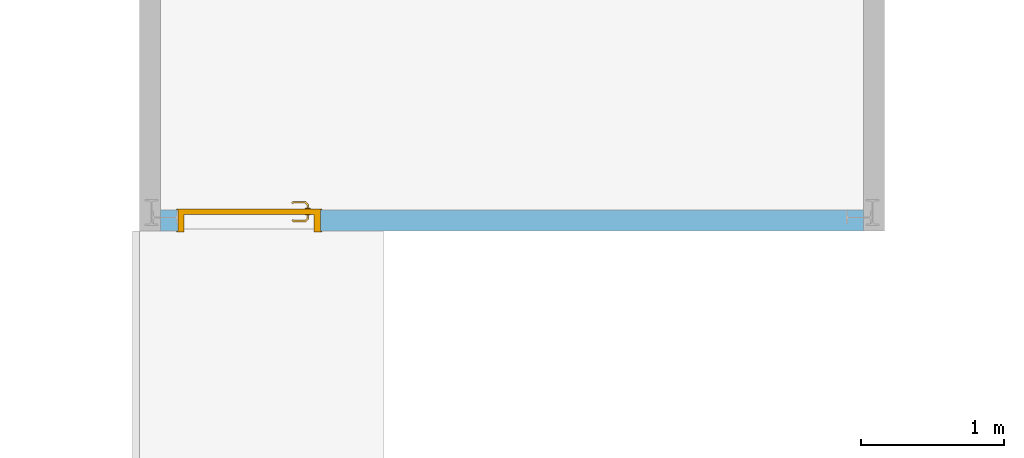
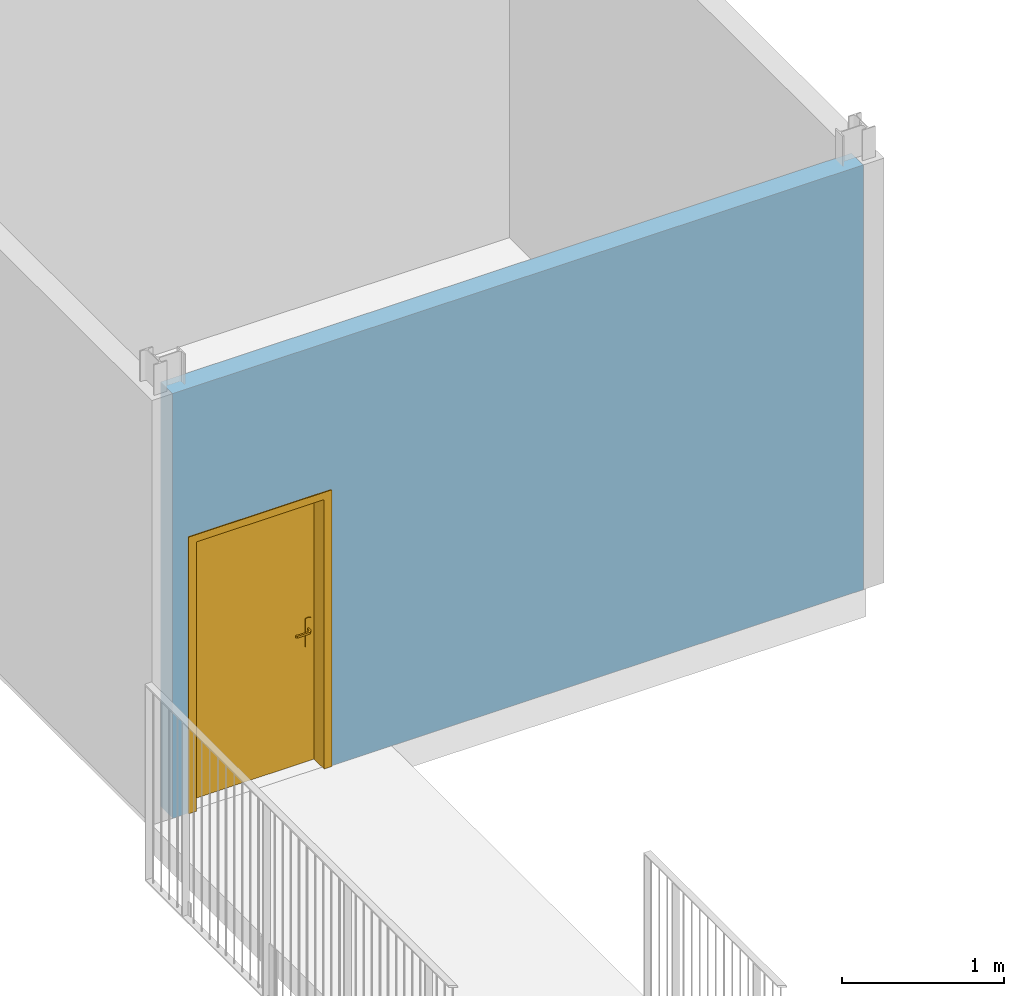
# One storey, part 37 of 44: 1 door, 1 opening, plus 1 element that does not belong to this part.
"""IFC2X3 building model written with IfcOpenShell, lengths in centimetres."""

from ifc_helpers import new_model, entity, si_unit, converted_unit, derived_unit, direction, frame, frame_2d, origin, place, context, subcontext, project, spatial, rectangle, extrude, faceted_brep, source, transform, mapped, material, material_list, layer, layer_set, layer_usage, type_object, type_shapes, element, fill, save


model = new_model("IFC2X3")

# Units and contexts
model_context = context("Model", 3, precision=0.001, world=origin(), true_north=direction((6.12303176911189e-17, 1.0)))
body_context = subcontext(model_context, "Body", "Model", "MODEL_VIEW")
ifc_project = project(units=[si_unit("LENGTHUNIT", "METRE", prefix="CENTI"), si_unit("AREAUNIT", "SQUARE_METRE"), si_unit("VOLUMEUNIT", "CUBIC_METRE"), converted_unit("PLANEANGLEUNIT", "DEGREE", entity("IfcRatioMeasure", 0.0174532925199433), si_unit("PLANEANGLEUNIT", "RADIAN"), dimensions=[0, 0, 0, 0, 0, 0, 0]), si_unit("MASSUNIT", "GRAM", prefix="KILO"), si_unit("TIMEUNIT", "SECOND"), si_unit("FREQUENCYUNIT", "HERTZ"), si_unit("THERMODYNAMICTEMPERATUREUNIT", "DEGREE_CELSIUS"), derived_unit("THERMALTRANSMITTANCEUNIT", [(si_unit("MASSUNIT", "GRAM", prefix="KILO"), 1), (si_unit("THERMODYNAMICTEMPERATUREUNIT", "KELVIN"), -1), (si_unit("TIMEUNIT", "SECOND"), -3)]), derived_unit("VOLUMETRICFLOWRATEUNIT", [(si_unit("LENGTHUNIT", "METRE"), 3), (si_unit("TIMEUNIT", "SECOND"), -1)]), si_unit("ELECTRICCURRENTUNIT", "AMPERE"), si_unit("ELECTRICVOLTAGEUNIT", "VOLT"), si_unit("POWERUNIT", "WATT"), si_unit("FORCEUNIT", "NEWTON", prefix="KILO"), si_unit("ILLUMINANCEUNIT", "LUX"), si_unit("LUMINOUSFLUXUNIT", "LUMEN"), si_unit("LUMINOUSINTENSITYUNIT", "CANDELA"), derived_unit("USERDEFINED", [(si_unit("MASSUNIT", "GRAM", prefix="KILO"), -1), (si_unit("LENGTHUNIT", "METRE"), -2), (si_unit("TIMEUNIT", "SECOND"), 3), (si_unit("LUMINOUSFLUXUNIT", "LUMEN"), 1)]), derived_unit("LINEARVELOCITYUNIT", [(si_unit("LENGTHUNIT", "METRE"), 1), (si_unit("TIMEUNIT", "SECOND"), -1)]), si_unit("PRESSUREUNIT", "PASCAL"), derived_unit("USERDEFINED", [(si_unit("LENGTHUNIT", "METRE"), -2), (si_unit("MASSUNIT", "GRAM", prefix="KILO"), 1), (si_unit("TIMEUNIT", "SECOND"), -2)])], contexts=[model_context])

# Site, building, storey
site_placement = place(None, frame((8.62739174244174, -249.285249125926, 0.0)))
site = spatial("IfcSite", under=ifc_project, at=site_placement, Name="Default", CompositionType="ELEMENT")
building_placement = place(site_placement, origin())
building = spatial("IfcBuilding", under=site, at=building_placement, CompositionType="ELEMENT")
storey_placement = place(building_placement, frame((0.0, 0.0, 343.0)))
storey = spatial("IfcBuildingStorey", under=building, at=storey_placement, Name="R+1", CompositionType="ELEMENT", Elevation=343.0)

# Wall, opening, door
ifc_material_1 = material(Name="Tôle/Doublage")
ifc_layer_1 = layer(ifc_material_1, 4.0)
ifc_material_2 = material(Name="Laine minérale")
ifc_layer_2 = layer(ifc_material_2, 9.5)
ifc_layer_3 = layer(ifc_material_1, 1.25)
ifc_layer_set = layer_set([ifc_layer_1, ifc_layer_2, ifc_layer_3], Name="Mur de base:MET 4 + ISO 10 + MET 1")
ifc_layer_usage = layer_usage(ifc_layer_set, "AXIS2", "NEGATIVE", 7.375)
wall_type = type_object("IfcWallType", Name="Mur de base:MET 4 + ISO 10 + MET 1", PredefinedType="STANDARD", material=ifc_layer_set)
wall_placement = place(storey_placement, frame((1531.15482780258, 1489.85520806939, 0.0), z_axis=(0.0, 0.0, 1.0), x_axis=(-1.0, 0.0, 0.0)))
wall = element("IfcWallStandardCase", 1, at=wall_placement, inside=storey, type_object=wall_type, material=ifc_layer_usage, Name="Mur de base:MET 4 + ISO 10 + MET 1", ObjectType="Mur de base:MET 4 + ISO 10 + MET 1", context=body_context, shape_type="SweptSolid", body=[
    extrude(rectangle(XDim=492.499999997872, YDim=14.7500000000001, at=frame_2d((246.249999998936, -4.9293902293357e-14), x_axis=(-1.0, 0.0))), origin(), (0.0, 0.0, 1.0), 320.0),
])
opening_placement = place(wall_placement, frame((480.449999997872, 7.37499999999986, 0.0)))
opening = element("IfcOpeningElement", 2, at=opening_placement, cuts=wall, Name="Simple(R)_bois_mu:93 x 204 cm:1", ObjectType="Opening", context=body_context, shape_type="SweptSolid", body=[
    extrude(rectangle(XDim=207.499999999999, YDim=99.9999999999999, at=frame_2d((103.749999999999, 50.0), x_axis=(1.0, 0.0))), frame((0.0, 0.0, 0.0), z_axis=(0.0, -1.0, 0.0), x_axis=(0.0, 0.0, 1.0)), (0.0, 0.0, 1.0), 14.75),
])
ifc_material_3 = material(Name="Porte - Poignée")
ifc_material_4 = material(Name="Porte - Cadre")
ifc_material_5 = material(Name="Porte - Panneau")
ifc_material_list_1 = material_list([ifc_material_3, ifc_material_4, ifc_material_5])
ifc_material_list_2 = material_list([ifc_material_3, ifc_material_4, ifc_material_5])
door_style = type_object("IfcDoorStyle", Name="93 x 204 cm", ConstructionType="NOTDEFINED", OperationType="SINGLE_SWING_RIGHT", ParameterTakesPrecedence=False, Sizeable=False, material=ifc_material_list_2)
shared_shape = source(origin(), body_context, "Body", "Brep", [
    faceted_brep([(8.79747013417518, 3.69999999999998, 100.778044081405), (8.3999999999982, 3.69999999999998, 100.699999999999), (8.39999999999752, 3.69999999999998, 99.2999999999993), (8.79747013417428, 3.69999999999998, 99.2219559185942), (9.20252986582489, 3.69999999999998, 99.2219559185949), (9.60000000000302, 3.69999999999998, 99.3000000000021), (9.60000000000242, 3.69999999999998, 100.699999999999), (9.2025298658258, 3.69999999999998, 100.778044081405), (9.60000000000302, 5.94852045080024, 99.3000000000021), (9.60000000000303, 5.94852045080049, 100.699999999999), (9.20252986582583, 6.1131579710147, 100.778044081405), (10.5838906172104, 7.49451872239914, 100.778044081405), (10.4161093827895, 7.89957845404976, 100.778044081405), (8.79747013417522, 6.2809392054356, 100.778044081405), (19.5684749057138, 6.84673156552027, 100.778044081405), (19.8548953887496, 7.13315204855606, 100.778044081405), (19.0884689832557, 7.89957845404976, 100.778044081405), (18.9206877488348, 7.49451872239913, 100.778044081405), (8.39999999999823, 6.44557672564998, 100.699999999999), (8.3999999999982, 6.44557672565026, 99.2999999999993), (8.79747013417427, 6.28093920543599, 99.2219559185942), (10.4161093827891, 7.8995784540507, 99.2219559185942), (10.58389061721, 7.49451872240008, 99.2219559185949), (9.20252986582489, 6.11315797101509, 99.2219559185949), (19.8548953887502, 7.13315204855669, 99.2219559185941), (19.5684749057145, 6.84673156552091, 99.2219559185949), (18.9206877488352, 7.49451872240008, 99.2219559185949), (19.088468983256, 7.8995784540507, 99.2219559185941), (10.7485281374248, 7.09704858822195, 99.3000000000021), (10.748528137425, 7.09704858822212, 100.699999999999), (10.2514718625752, 8.29704858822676, 100.699999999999), (10.2514718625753, 8.29704858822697, 99.2999999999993), (14.7522904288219, 7.09704858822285, 99.3000000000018), (18.7560502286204, 7.09704858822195, 99.3000000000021), (18.7560502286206, 7.09704858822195, 100.699999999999), (14.7522891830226, 7.09704858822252, 100.699999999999), (14.7522891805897, 7.71249275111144, 100.787811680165), (19.25310650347, 8.29704858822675, 100.699999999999), (15.2600577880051, 8.29704858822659, 100.699999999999), (19.2531065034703, 8.29704858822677, 99.2999999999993), (14.2445206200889, 8.29704858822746, 99.2999999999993), (14.7522892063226, 7.71249274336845, 99.2121883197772), (19.2874210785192, 6.56567773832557, 99.3000000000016), (20.1359492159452, 7.41420587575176, 99.2999999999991), (20.135949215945, 7.4142058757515, 100.699999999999), (19.287421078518, 6.5656777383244, 100.699999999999)], [[[0, 1, 2, 3, 4, 5, 6, 7]], [[6, 5, 8, 9]], [[9, 10, 7, 6]], [[10, 11, 12, 13, 0, 7]], [[14, 15, 16, 17]], [[13, 18, 1, 0]], [[2, 1, 18, 19]], [[19, 20, 3, 2]], [[20, 21, 22, 23, 4, 3]], [[24, 25, 26, 27]], [[23, 8, 5, 4]], [[9, 8, 28, 29]], [[29, 11, 10, 9]], [[12, 30, 18, 13]], [[19, 18, 30, 31]], [[31, 21, 20, 19]], [[22, 28, 8, 23]], [[29, 28, 32, 33, 34, 35]], [[11, 35, 36]], [[16, 37, 38]], [[30, 12, 38]], [[38, 12, 36]], [[36, 35, 17]], [[17, 16, 36]], [[35, 11, 29]], [[34, 17, 35]], [[11, 36, 12]], [[38, 36, 16]], [[31, 30, 38, 37, 39, 40]], [[40, 41, 21]], [[41, 40, 27]], [[21, 31, 40]], [[39, 27, 40]], [[41, 32, 22]], [[22, 21, 41]], [[26, 32, 41]], [[28, 22, 32]], [[32, 26, 33]], [[26, 41, 27]], [[42, 25, 24, 43, 44, 15, 14, 45]], [[34, 33, 42, 45]], [[45, 14, 17, 34]], [[15, 44, 37, 16]], [[39, 37, 44, 43]], [[43, 24, 27, 39]], [[25, 42, 33, 26]]]),
    faceted_brep([(8.79747013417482, -1.30000000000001, 100.778044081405), (9.20252986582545, -1.30000000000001, 100.778044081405), (9.6000000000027, -1.30000000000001, 100.699999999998), (9.60000000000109, -1.30000000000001, 99.3000000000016), (9.20252986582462, -1.30000000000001, 99.2219559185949), (8.79747013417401, -1.30000000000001, 99.2219559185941), (8.39999999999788, -1.30000000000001, 99.2999999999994), (8.39999999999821, -1.30000000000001, 100.699999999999), (8.39999999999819, -4.06509507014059, 100.699999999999), (8.7974701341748, -3.90045754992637, 100.778044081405), (10.402358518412, -5.50534593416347, 100.778044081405), (10.5701397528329, -5.10028620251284, 100.778044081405), (9.20252986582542, -3.73267631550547, 100.778044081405), (19.852181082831, -4.73891952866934, 100.778044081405), (19.5657605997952, -4.4524990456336, 100.778044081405), (18.9179734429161, -5.10028620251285, 100.778044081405), (19.085754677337, -5.50534593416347, 100.778044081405), (9.60000000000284, -3.56803879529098, 100.699999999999), (9.6000000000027, -3.56803879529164, 99.3000000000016), (9.20252986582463, -3.7326763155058, 99.2219559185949), (10.5701397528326, -5.10028620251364, 99.2219559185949), (10.4023585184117, -5.50534593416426, 99.2219559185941), (8.79747013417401, -3.9004575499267, 99.2219559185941), (19.5657605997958, -4.45249904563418, 99.2219559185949), (19.8521810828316, -4.73891952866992, 99.2219559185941), (19.0857546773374, -5.50534593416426, 99.2219559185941), (18.9179734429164, -5.10028620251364, 99.2219559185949), (8.39999999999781, -4.06509507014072, 99.2999999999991), (10.2377209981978, -5.90281606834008, 100.699999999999), (10.7347772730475, -4.70281606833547, 100.699999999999), (10.7347772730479, -4.70281606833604, 99.3000000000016), (10.2377209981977, -5.90281606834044, 99.2999999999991), (14.2307697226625, -5.90281606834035, 100.699999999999), (14.7440566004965, -5.31828027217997, 100.787811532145), (19.2503921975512, -5.90281606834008, 100.699999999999), (14.7440565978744, -4.70281606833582, 100.699999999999), (18.7533359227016, -4.70281606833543, 100.699999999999), (18.7533359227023, -4.70281606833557, 99.3000000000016), (14.7440563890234, -4.70281606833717, 99.3000000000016), (14.744056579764, -5.31828027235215, 99.2121884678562), (19.2503921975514, -5.90281606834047, 99.2999999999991), (15.2573433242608, -5.90281606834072, 99.2999999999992), (19.2847067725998, -4.1714452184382, 100.699999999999), (20.1332349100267, -5.01997335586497, 100.699999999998), (20.1332349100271, -5.01997335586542, 99.2999999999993), (19.2847067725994, -4.17144521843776, 99.3000000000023)], [[[0, 1, 2, 3, 4, 5, 6, 7]], [[8, 9, 0, 7]], [[9, 10, 11, 12, 1, 0]], [[13, 14, 15, 16]], [[12, 17, 2, 1]], [[3, 2, 17, 18]], [[18, 19, 4, 3]], [[19, 20, 21, 22, 5, 4]], [[23, 24, 25, 26]], [[22, 27, 6, 5]], [[7, 6, 27, 8]], [[28, 10, 9, 8]], [[11, 29, 17, 12]], [[18, 17, 29, 30]], [[30, 20, 19, 18]], [[21, 31, 27, 22]], [[8, 27, 31, 28]], [[32, 33, 10]], [[33, 32, 16]], [[10, 28, 32]], [[34, 16, 32]], [[33, 35, 11]], [[11, 10, 33]], [[15, 35, 33]], [[29, 11, 35]], [[35, 15, 36]], [[15, 33, 16]], [[30, 29, 35, 36, 37, 38]], [[20, 38, 39]], [[25, 40, 41]], [[31, 21, 41]], [[41, 21, 39]], [[39, 38, 26]], [[26, 25, 39]], [[38, 20, 30]], [[37, 26, 38]], [[20, 39, 21]], [[41, 39, 25]], [[28, 31, 41, 40, 34, 32]], [[42, 14, 13, 43, 44, 24, 23, 45]], [[43, 13, 16, 34]], [[14, 42, 36, 15]], [[37, 36, 42, 45]], [[45, 23, 26, 37]], [[24, 44, 40, 25]], [[34, 40, 44, 43]]]),
    faceted_brep([(10.03527618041, 3.19999999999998, 86.6003983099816), (11.0, 3.19999999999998, 87.0), (11.0, 3.19999999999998, 108.0), (10.03527618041, 3.19999999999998, 108.399601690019), (9.0, 3.19999999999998, 108.535898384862), (7.96472381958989, 3.19999999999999, 108.399601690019), (7.0, 3.19999999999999, 108.0), (7.0, 3.19999999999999, 87.0), (7.96472381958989, 3.19999999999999, 86.6003983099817), (9.0, 3.19999999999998, 86.4641016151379), (10.03527618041, 3.69999999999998, 108.399601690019), (11.0, 3.69999999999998, 108.0), (11.0, 3.69999999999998, 87.0), (10.03527618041, 3.69999999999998, 86.6003983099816), (9.0, 3.69999999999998, 86.4641016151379), (7.96472381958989, 3.69999999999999, 86.6003983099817), (7.0, 3.69999999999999, 87.0), (7.0, 3.69999999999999, 108.0), (7.96472381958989, 3.69999999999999, 108.399601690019), (9.0, 3.69999999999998, 108.535898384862)], [[[0, 1, 2, 3, 4, 5, 6, 7, 8, 9]], [[10, 11, 12, 13, 14, 15, 16, 17, 18, 19]], [[11, 10, 3, 2]], [[3, 10, 19, 4]], [[19, 18, 5, 4]], [[18, 17, 6, 5]], [[7, 6, 17, 16]], [[16, 15, 8, 7]], [[8, 15, 14, 9]], [[14, 13, 0, 9]], [[13, 12, 1, 0]], [[2, 1, 12, 11]]]),
    faceted_brep([(10.03527618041, -1.30000000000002, 86.6003983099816), (11.0, -1.30000000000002, 87.0), (11.0, -1.30000000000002, 108.0), (10.03527618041, -1.30000000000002, 108.399601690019), (9.0, -1.30000000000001, 108.535898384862), (7.9647238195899, -1.30000000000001, 108.399601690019), (7.0, -1.30000000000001, 108.0), (7.0, -1.30000000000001, 87.0), (7.96472381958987, -1.30000000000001, 86.6003983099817), (9.0, -1.30000000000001, 86.4641016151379), (10.03527618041, -0.800000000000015, 108.399601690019), (11.0, -0.800000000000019, 108.0), (11.0, -0.800000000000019, 87.0), (10.03527618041, -0.800000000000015, 86.6003983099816), (9.0, -0.800000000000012, 86.4641016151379), (7.96472381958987, -0.800000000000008, 86.6003983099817), (7.0, -0.800000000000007, 87.0), (7.0, -0.800000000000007, 108.0), (7.9647238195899, -0.800000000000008, 108.399601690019), (9.0, -0.800000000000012, 108.535898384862)], [[[0, 1, 2, 3, 4, 5, 6, 7, 8, 9]], [[10, 11, 12, 13, 14, 15, 16, 17, 18, 19]], [[16, 15, 8, 7]], [[8, 15, 14, 9]], [[14, 13, 0, 9]], [[13, 12, 1, 0]], [[2, 1, 12, 11]], [[11, 10, 3, 2]], [[3, 10, 19, 4]], [[19, 18, 5, 4]], [[18, 17, 6, 5]], [[7, 6, 17, 16]]]),
    faceted_brep([(0.0, 0.0, 0.0), (0.0, 14.750000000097, 0.0), (-1.0, 14.750000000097, 0.0), (-1.0, 15.5500000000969, 0.0), (4.49999999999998, 15.5500000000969, 0.0), (4.49999999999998, 3.2, 0.0), (3.49999999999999, 3.2, 0.0), (3.49999999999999, -0.799999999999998, 0.0), (-1.0, -0.799999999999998, 0.0), (-1.0, 0.0, 0.0), (0.0, 0.0, 207.499999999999), (0.0, 14.750000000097, 207.499999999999), (100.0, 14.750000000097, 207.499999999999), (100.0, 14.750000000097, 0.0), (101.0, 14.750000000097, 0.0), (101.0, 14.750000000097, 208.499999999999), (-1.0, 14.750000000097, 208.499999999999), (-1.0, 15.5500000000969, 208.499999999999), (101.0, 15.5500000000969, 208.499999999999), (101.0, 15.5500000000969, 0.0), (95.5, 15.5500000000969, 0.0), (95.5, 15.5500000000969, 203.0), (4.49999999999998, 15.5500000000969, 203.0), (4.49999999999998, 3.2, 203.0), (95.5, 3.2, 203.0), (95.5, 3.2, 0.0), (96.5, 3.2, 0.0), (96.5, 3.2, 204.0), (3.49999999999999, 3.2, 204.0), (3.49999999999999, -0.799999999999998, 204.0), (96.5, -0.799999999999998, 204.0), (96.5, -0.799999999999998, 0.0), (101.0, -0.799999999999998, 0.0), (101.0, -0.799999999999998, 208.499999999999), (-1.0, -0.799999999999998, 208.499999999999), (-1.0, 0.0, 208.499999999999), (101.0, 0.0, 208.499999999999), (101.0, 0.0, 0.0), (100.0, 0.0, 0.0), (100.0, 0.0, 207.499999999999)], [[[0, 1, 2, 3, 4, 5, 6, 7, 8, 9]], [[1, 0, 10, 11]], [[2, 1, 11, 12, 13, 14, 15, 16]], [[3, 2, 16, 17]], [[4, 3, 17, 18, 19, 20, 21, 22]], [[5, 4, 22, 23]], [[6, 5, 23, 24, 25, 26, 27, 28]], [[7, 6, 28, 29]], [[8, 7, 29, 30, 31, 32, 33, 34]], [[9, 8, 34, 35]], [[0, 9, 35, 36, 37, 38, 39, 10]], [[12, 39, 38, 13]], [[38, 37, 32, 31, 26, 25, 20, 19, 14, 13]], [[18, 15, 14, 19]], [[24, 21, 20, 25]], [[30, 27, 26, 31]], [[36, 33, 32, 37]], [[11, 10, 39, 12]], [[17, 16, 15, 18]], [[23, 22, 21, 24]], [[29, 28, 27, 30]], [[35, 34, 33, 36]]]),
    faceted_brep([(3.49999999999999, -0.799999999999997, 204.0), (3.49999999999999, -0.799999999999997, 0.0), (96.5, -0.799999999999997, 0.0), (96.5, -0.799999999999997, 204.0), (3.49999999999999, 3.2, 204.0), (96.5, 3.2, 204.0), (96.5, 3.2, 0.0), (3.49999999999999, 3.2, 0.0)], [[[0, 1, 2, 3]], [[4, 5, 6, 7]], [[1, 0, 4, 7]], [[2, 1, 7, 6]], [[3, 2, 6, 5]], [[0, 3, 5, 4]]]),
])
type_shapes(door_style, [shared_shape])
door_placement = place(opening_placement, frame((-100.0, -14.7500000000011, 0.0)))
door = element("IfcDoor", 3, at=door_placement, inside=storey, type_object=door_style, material=ifc_material_list_1, Name="Simple(R)_bois_mu:93 x 204 cm", ObjectType="93 x 204 cm", OverallHeight=207.499999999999, OverallWidth=100.0, context=body_context, shape_type="MappedRepresentation", body=[
    mapped(shared_shape, transform((0.0, 0.0, 0.0), scale=1.0)),
])
fill(opening, door)

save(model, "model.ifc")
